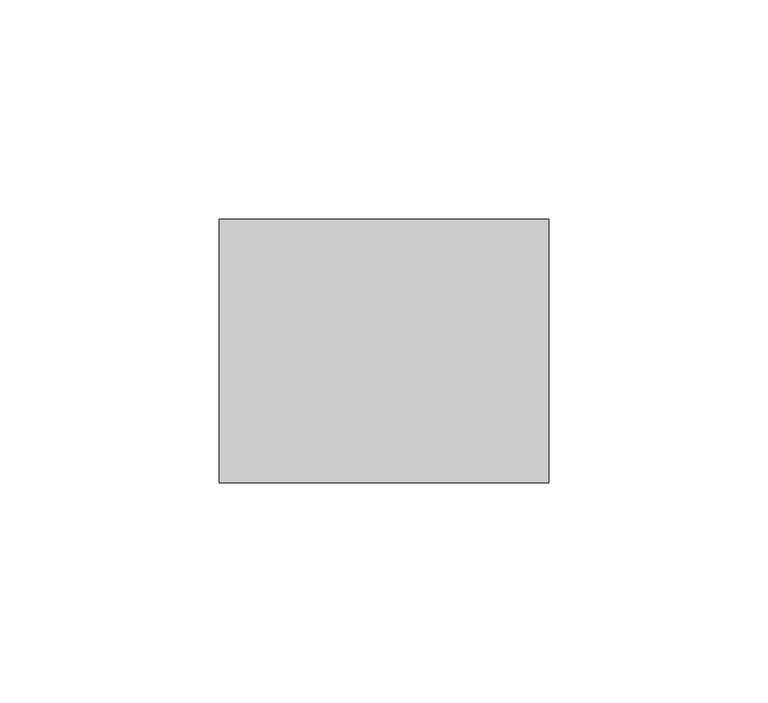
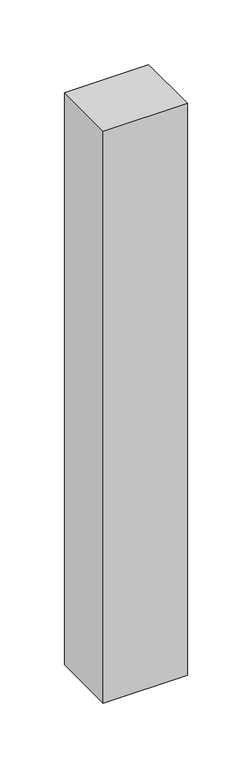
"""IFC4 building model written with IfcOpenShell, lengths in millimetres: proxy geometry, Брус : 60х75."""

from ifc_helpers import new_model, si_unit, origin, origin_with_axes, place, context, project, spatial, polyline, outline, extrude, source, transform, mapped, element, save


def generic_models_5f790783(model_context):
    return source(origin(), model_context, "Body", "SweptSolid", [
        extrude(outline(polyline([(75.0, 0.0), (0.0, 0.0), (0.0, 60.0), (75.0, 60.0), (75.0, 0.0)])), origin_with_axes(), (0.0, 0.0, 1.0), 540.0),
    ])


if __name__ == "__main__":
    model = new_model("IFC4")
    model_context = context("Model", 3, world=origin())
    ifc_project = project(units=[si_unit("LENGTHUNIT", "METRE", prefix="MILLI")], contexts=[model_context])
    site = spatial("IfcSite", under=ifc_project)
    building = spatial("IfcBuilding", under=site)
    placement = place(None, origin())
    generic_models_shape = generic_models_5f790783(model_context)
    element("IfcBuildingElementProxy", 1, Name="Брус : 60х75", ObjectType="Брус : 60х75", at=placement, inside=building, context=model_context, shape_type="MappedRepresentation", body=[
        mapped(generic_models_shape, transform((0.0, 0.0, 0.0), x_axis=(1.0, 0.0, 0.0), y_axis=(0.0, 1.0, 0.0), z_axis=(0.0, 0.0, 1.0))),
    ])
    save(model, "model.ifc")
